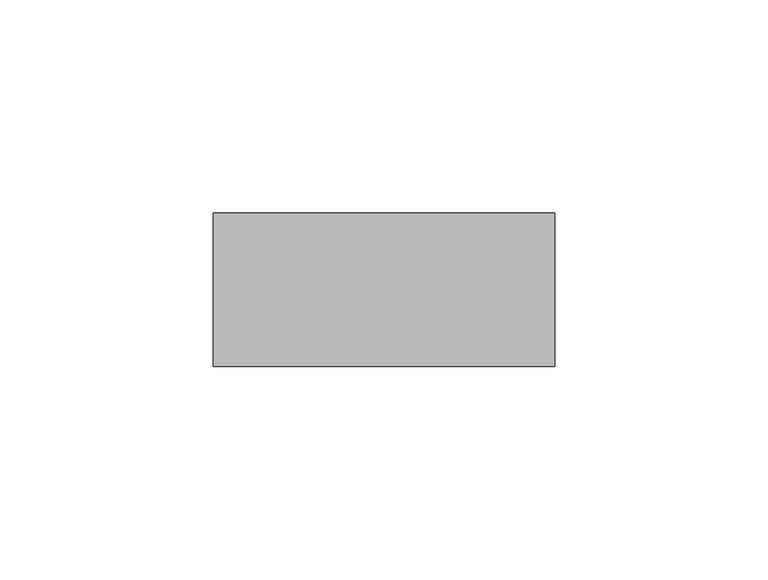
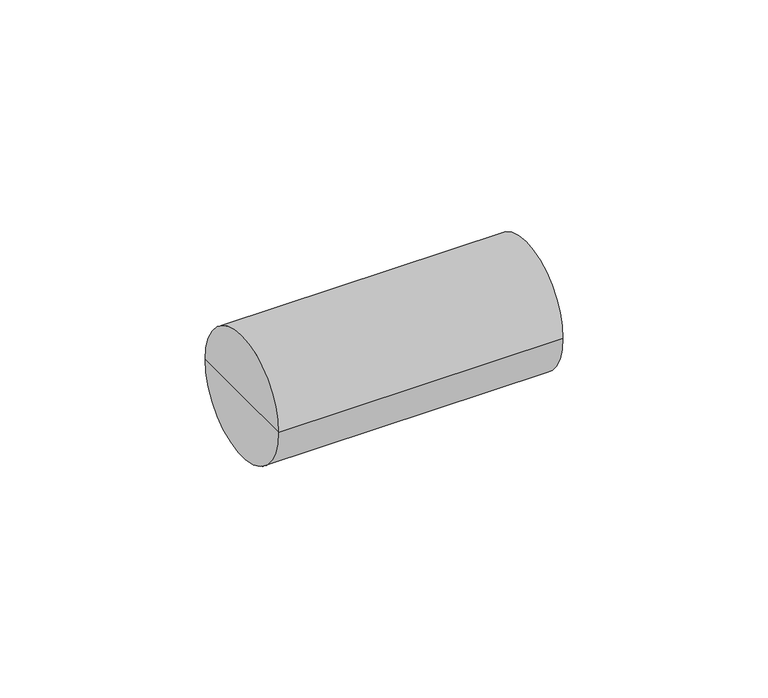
"""IFC4 building model written with IfcOpenShell, lengths in millimetres: cable carrier fitting geometry, Муфта прямая труба-труба армированная IP65 GA : CTA10D-GA32-K41-020."""

import ifcopenshell
import ifcopenshell.guid

model = None  # the IFC model being written
_history = None  # IfcOwnerHistory: only IFC2X3 demands one
_inside = {}  # id of a spatial element -> (the spatial element, [elements in it])
_under = {}  # id of a project, library or spatial element -> (it, [spatial elements below it])
_declared = {}  # id of a project -> (the project, [libraries it declares])
_typed = {}  # id of a type object -> (the type object, [elements of that type])
_made_of = {}  # id of a material, layer set ... -> (it, [elements and type objects made of it])


def new_model(schema):
    """Start an empty IFC model of exactly this schema.

    Asked for "IFC4X3", IfcOpenShell would pick the latest addendum, in which some entities
    have other attributes; the version numbers below select the first issue.
    IFC2X3 requires an IfcOwnerHistory on every rooted entity: one is made here for all.
    """
    global model, _history
    if schema == "IFC4X3":
        model = ifcopenshell.file(schema_version=(4, 3, 0, 0))
    else:
        model = ifcopenshell.file(schema=schema)
    _inside.clear()
    _under.clear()
    _declared.clear()
    _typed.clear()
    _made_of.clear()
    _history = None
    if model.schema == "IFC2X3":
        org = make("IfcOrganization", Name="unknown")
        user = make(
            "IfcPersonAndOrganization",
            ThePerson=make("IfcPerson", FamilyName="unknown"),
            TheOrganization=org,
        )
        app = make(
            "IfcApplication",
            ApplicationDeveloper=org,
            Version="unknown",
            ApplicationFullName="unknown",
            ApplicationIdentifier="unknown",
        )
        _history = make(
            "IfcOwnerHistory",
            OwningUser=user,
            OwningApplication=app,
            ChangeAction="ADDED",
            CreationDate=0,
        )
    return model


def make(cls, **values):
    """One entity of the class cls with the attributes given. An attribute that is None is left unset."""
    return model.create_entity(
        cls, **{name: value for name, value in values.items() if value is not None}
    )


def rooted(cls, **values):
    """An entity with a GlobalId (a new one), such as an element, a storey or a relation."""
    return make(cls, GlobalId=ifcopenshell.guid.new(), OwnerHistory=_history, **values)


def si_unit(unit_type, name, prefix=None):
    """IfcSIUnit, for example si_unit("LENGTHUNIT", "METRE", prefix="MILLI")."""
    return make("IfcSIUnit", UnitType=unit_type, Prefix=prefix, Name=name)


def assignment(units):
    """IfcUnitAssignment: the units of a project."""
    return None if units is None else make("IfcUnitAssignment", Units=units)


def point(xyz):
    """IfcCartesianPoint."""
    return None if xyz is None else make("IfcCartesianPoint", Coordinates=xyz)


def direction(xyz):
    """IfcDirection."""
    return None if xyz is None else make("IfcDirection", DirectionRatios=xyz)


def frame(location, z_axis=None, x_axis=None):
    """IfcAxis2Placement3D, a coordinate frame: its origin and axes. An axis left out is left unset."""
    return make(
        "IfcAxis2Placement3D",
        Location=point(location),
        Axis=direction(z_axis),
        RefDirection=direction(x_axis),
    )


def origin():
    """The frame at (0, 0, 0) with its axes left unset."""
    return frame((0.0, 0.0, 0.0))


def place(relative_to, where):
    """IfcLocalPlacement: puts the frame where relative to a parent placement (None: the world)."""
    return make(
        "IfcLocalPlacement", PlacementRelTo=relative_to, RelativePlacement=where
    )


def context(
    kind, dimensions, precision=None, world=None, true_north=None, identifier=None
):
    """IfcGeometricRepresentationContext, for example the 3D "Model" context."""
    return make(
        "IfcGeometricRepresentationContext",
        ContextIdentifier=identifier,
        ContextType=kind,
        CoordinateSpaceDimension=dimensions,
        Precision=precision,
        WorldCoordinateSystem=world,
        TrueNorth=true_north,
    )


def project(units=None, contexts=None):
    """IfcProject with its units and contexts."""
    return rooted(
        "IfcProject",
        Name="project",
        RepresentationContexts=contexts,
        UnitsInContext=assignment(units),
    )


def spatial(cls, under=None, at=None, **own):
    """A site, building, storey or space (cls), placed at a placement, below another one or the project."""
    s = rooted(cls, ObjectPlacement=at, **own)
    if under is not None:
        _under.setdefault(under.id(), (under, []))[1].append(s)
    return s


def circle_curve(where, radius):
    """IfcCircle in the frame where."""
    return make("IfcCircle", Position=where, Radius=radius)


def shape(context_of_items, identifier, shape_type, items):
    """IfcShapeRepresentation: the items that make up one representation, for example the "Body"."""
    return make(
        "IfcShapeRepresentation",
        ContextOfItems=context_of_items,
        RepresentationIdentifier=identifier,
        RepresentationType=shape_type,
        Items=items,
    )


def source(mapping_origin, context_of_items, identifier, shape_type, items):
    """IfcRepresentationMap: a shape defined once, which mapped items show again and again."""
    return make(
        "IfcRepresentationMap",
        MappingOrigin=mapping_origin,
        MappedRepresentation=shape(context_of_items, identifier, shape_type, items),
    )


def transform(
    local_origin,
    x_axis=None,
    y_axis=None,
    z_axis=None,
    scale=None,
    scale2=None,
    scale3=None,
    uniform=True,
):
    """IfcCartesianTransformationOperator3D, or its non-uniform kind. x_axis, y_axis, z_axis: its Axis1, 2, 3."""
    if uniform:
        return make(
            "IfcCartesianTransformationOperator3D",
            Axis1=direction(x_axis),
            Axis2=direction(y_axis),
            LocalOrigin=point(local_origin),
            Scale=scale,
            Axis3=direction(z_axis),
        )
    return make(
        "IfcCartesianTransformationOperator3DnonUniform",
        Axis1=direction(x_axis),
        Axis2=direction(y_axis),
        LocalOrigin=point(local_origin),
        Scale=scale,
        Axis3=direction(z_axis),
        Scale2=scale2,
        Scale3=scale3,
    )


def mapped(mapping_source, mapping_target):
    """IfcMappedItem: shows the shape of a source again, moved by a transform."""
    return make(
        "IfcMappedItem", MappingSource=mapping_source, MappingTarget=mapping_target
    )


def made_of(thing, what):
    """Note that an element or type object is made of a material, layer set ...; save() writes the relation."""
    if what is not None:
        _made_of.setdefault(what.id(), (what, []))[1].append(thing)
    return thing


def element(
    cls,
    number,
    at=None,
    inside=None,
    cuts=None,
    type_object=None,
    material=None,
    context=None,
    identifier="Body",
    shape_type=None,
    held_by="IfcProductDefinitionShape",
    body=None,
    shapes=None,
    **own,
):
    """One element of the class cls, such as IfcWall. Its Tag is "e" and its number.

    at: its placement. inside: the storey or other place that contains it. cuts: it is an
    opening in that element (IfcRelVoidsElement). A single representation is given by context,
    identifier, shape_type and body (its items); several are given by shapes. held_by: the class
    of the entity that holds the representations. save() writes the other relations.
    """
    e = rooted(cls, Tag="e%d" % number, ObjectPlacement=at, **own)
    if body is not None:
        shapes = [shape(context, identifier, shape_type, body)]
    if shapes is not None:
        e.Representation = make(held_by, Representations=shapes)
    if inside is not None:
        _inside.setdefault(inside.id(), (inside, []))[1].append(e)
    if cuts is not None:
        rooted(
            "IfcRelVoidsElement", RelatingBuildingElement=cuts, RelatedOpeningElement=e
        )
    if type_object is not None:
        _typed.setdefault(type_object.id(), (type_object, []))[1].append(e)
    return made_of(e, material)


def aggregate(whole, parts):
    """IfcRelAggregates: a whole, such as a stair, and the parts it consists of."""
    return rooted("IfcRelAggregates", RelatingObject=whole, RelatedObjects=parts)


def save(model, path):
    """Write the relations noted so far, then the file.

    IfcRelAggregates (storeys below a building ...), IfcRelContainedInSpatialStructure (elements
    in a storey), IfcRelDefinesByType, IfcRelAssociatesMaterial and IfcRelDeclares: one each for
    every whole, place, type object, material and project.
    """
    for whole, parts in _under.values():
        aggregate(whole, parts)
    for where, things in _inside.values():
        rooted(
            "IfcRelContainedInSpatialStructure",
            RelatedElements=things,
            RelatingStructure=where,
        )
    for kind, things in _typed.values():
        rooted("IfcRelDefinesByType", RelatedObjects=things, RelatingType=kind)
    for what, things in _made_of.values():
        rooted("IfcRelAssociatesMaterial", RelatedObjects=things, RelatingMaterial=what)
    for by, libraries in _declared.values():
        rooted("IfcRelDeclares", RelatingContext=by, RelatedDefinitions=libraries)
    model.write(path)


def plane_surface(at):
    """IfcPlane: the flat surface through the origin of the frame at, square to its z axis."""
    return make("IfcPlane", Position=at)


def cylinder_surface(at, radius):
    """IfcCylindricalSurface: all points at the distance radius from the z axis of the frame at."""
    return make("IfcCylindricalSurface", Position=at, Radius=radius)


def advanced_brep(points, edges, surfaces, faces):
    """IfcAdvancedBrep: a solid bounded by faces that lie on surfaces and meet in shared edges.

    An edge is (start, end): straight between two places in points (the first is 0);
    or (start, end, curve); or (start, end, curve, False) where it runs against its curve.
    A face is (place in surfaces, loops), or (place, loops, False) where it looks against
    its surface's normal. A loop lists edges by number (the first is 1), with a minus sign
    where the edge is run from its end to its start. The first loop is the outer one.
    """
    corners = [point(p) for p in points]
    vertices = [make("IfcVertexPoint", VertexGeometry=c) for c in corners]
    made = []
    for start, end, *more in edges:
        made.append(
            make(
                "IfcEdgeCurve",
                EdgeStart=vertices[start],
                EdgeEnd=vertices[end],
                EdgeGeometry=more[0] if more else make("IfcPolyline", Points=[corners[start], corners[end]]),
                SameSense=more[1] if len(more) > 1 else True,
            )
        )
    hull = []
    for where, loops, *sense in faces:
        bounds = []
        for j, loop in enumerate(loops):
            ring = [make("IfcOrientedEdge", EdgeElement=made[abs(k) - 1], Orientation=k > 0) for k in loop]
            bounds.append(
                make(
                    "IfcFaceOuterBound" if j == 0 else "IfcFaceBound",
                    Bound=make("IfcEdgeLoop", EdgeList=ring),
                    Orientation=True,
                )
            )
        hull.append(make("IfcAdvancedFace", Bounds=bounds, FaceSurface=surfaces[where], SameSense=sense[0] if sense else True))
    return make("IfcAdvancedBrep", Outer=make("IfcClosedShell", CfsFaces=hull))


def cable_carrier_fitting_2f32caac(model_context):
    return source(origin(), model_context, "Body", "AdvancedBrep", [
        advanced_brep(
        [(-40.0, -18.0, 0.0), (-40.0, 18.0, 0.0), (40.0, 18.0, 0.0), (40.0, -18.0, 0.0), (-40.0, 0.0, 0.0), (40.0, 0.0, 0.0)],
        [
            (0, 1, circle_curve(frame((-40.0, 0.0, 0.0), z_axis=(1.0, 0.0, 0.0), x_axis=(0.0, 1.0, 0.0)), 18.0)),
            (1, 2),
            (2, 3, circle_curve(frame((40.0, 0.0, 0.0), z_axis=(-1.0, 0.0, 0.0), x_axis=(0.0, 1.0, 0.0)), 18.0)),
            (3, 0),
            (1, 0, circle_curve(frame((-40.0, 0.0, 0.0), z_axis=(1.0, 0.0, 0.0), x_axis=(0.0, 1.0, 0.0)), 18.0)),
            (3, 2, circle_curve(frame((40.0, 0.0, 0.0), z_axis=(-1.0, 0.0, 0.0), x_axis=(0.0, 1.0, 0.0)), 18.0)),
            (4, 1),
            (0, 4),
            (2, 5),
            (5, 3),
        ],
        [
            cylinder_surface(frame((1965.0, 0.0, 0.0), z_axis=(-1.0, 0.0, 0.0), x_axis=(0.0, 1.0, 0.0)), 18.0),
            plane_surface(frame((-40.0, 0.0, 0.0), z_axis=(-1.0, 0.0, 0.0), x_axis=(0.0, 1.0, 0.0))),
            plane_surface(frame((40.0, 0.0, 0.0), z_axis=(1.0, 0.0, 0.0), x_axis=(0.0, 1.0, 0.0))),
        ],
        [
            (0, [[1, 2, 3, 4]]),
            (0, [[5, -4, 6, -2]]),
            (1, [[7, -1, 8]]),
            (1, [[-8, -5, -7]]),
            (2, [[-3, 9, 10]]),
            (2, [[-6, -10, -9]]),
        ],
    ),
    ])


if __name__ == "__main__":
    model = new_model("IFC4")
    model_context = context("Model", 3, world=origin())
    ifc_project = project(units=[si_unit("LENGTHUNIT", "METRE", prefix="MILLI")], contexts=[model_context])
    site = spatial("IfcSite", under=ifc_project)
    building = spatial("IfcBuilding", under=site)
    placement = place(None, origin())
    cable_carrier_fitting_shape = cable_carrier_fitting_2f32caac(model_context)
    element("IfcCableCarrierFitting", 1, ObjectType="Муфта прямая труба-труба армированная IP65 GA : CTA10D-GA32-K41-020", at=placement, inside=building, context=model_context, shape_type="MappedRepresentation", body=[
        mapped(cable_carrier_fitting_shape, transform((0.0, 0.0, 0.0), x_axis=(1.0, 0.0, 0.0), y_axis=(0.0, 1.0, 0.0), z_axis=(0.0, 0.0, 1.0))),
    ])
    save(model, "model.ifc")
